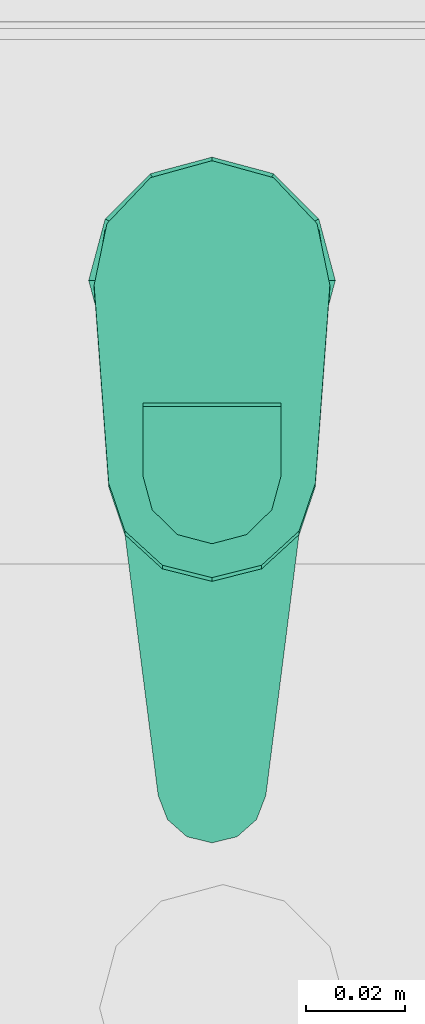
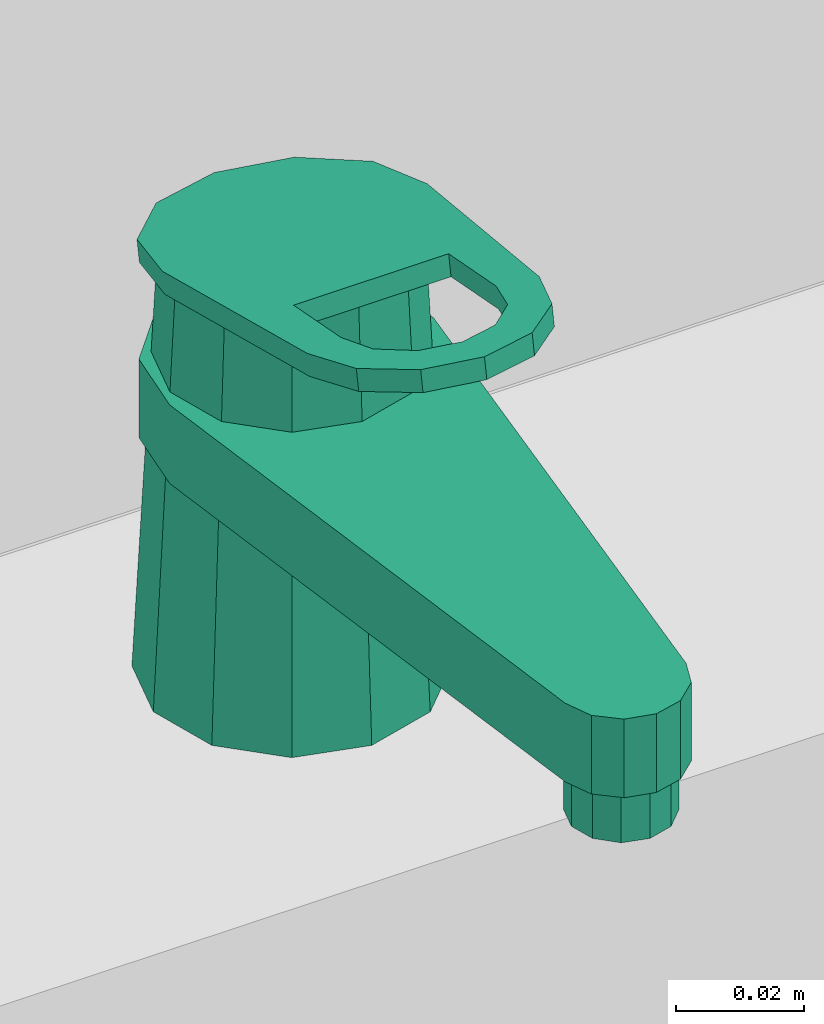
# One storey, part 91 of 127: 1 flow terminal.
"""IFC2X3 building model written with IfcOpenShell, lengths in millimetres."""

from ifc_helpers import new_model, entity, si_unit, converted_unit, derived_unit, money_unit, direction, frame, origin_with_axes, place, context, subcontext, project, spatial, faceted_brep, type_object, element, save


model = new_model("IFC2X3")

# Units and contexts
model_context = context("Model", 3, precision=1e-05, world=origin_with_axes(), true_north=direction((0.0, 1.0)))
body_context = subcontext(model_context, "Body", "Model", "MODEL_VIEW")
ifc_project = project(units=[si_unit("LENGTHUNIT", "METRE", prefix="MILLI"), si_unit("AREAUNIT", "SQUARE_METRE"), si_unit("VOLUMEUNIT", "CUBIC_METRE"), converted_unit("PLANEANGLEUNIT", "DEGREE", entity("IfcPlaneAngleMeasure", 0.0174532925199), si_unit("PLANEANGLEUNIT", "RADIAN"), dimensions=[0, 0, 0, 0, 0, 0, 0]), si_unit("SOLIDANGLEUNIT", "STERADIAN"), money_unit("EUR"), converted_unit("TIMEUNIT", "Year", entity("IfcTimeMeasure", 31556926.0), si_unit("TIMEUNIT", "SECOND"), dimensions=[0, 0, 1, 0, 0, 0, 0]), si_unit("MASSUNIT", "GRAM", prefix="KILO"), si_unit("THERMODYNAMICTEMPERATUREUNIT", "DEGREE_CELSIUS"), si_unit("LUMINOUSINTENSITYUNIT", "LUMEN"), si_unit("ENERGYUNIT", "JOULE", prefix="MEGA"), derived_unit("THERMALCONDUCTANCEUNIT", [(si_unit("POWERUNIT", "WATT"), 1), (si_unit("LENGTHUNIT", "METRE"), -1), (si_unit("THERMODYNAMICTEMPERATUREUNIT", "KELVIN"), -1)]), derived_unit("SPECIFICHEATCAPACITYUNIT", [(si_unit("ENERGYUNIT", "JOULE"), 1), (si_unit("MASSUNIT", "GRAM", prefix="KILO"), -1), (si_unit("THERMODYNAMICTEMPERATUREUNIT", "KELVIN"), -1)]), derived_unit("MASSDENSITYUNIT", [(si_unit("MASSUNIT", "GRAM", prefix="KILO"), 1), (si_unit("VOLUMEUNIT", "CUBIC_METRE"), -1)])], contexts=[model_context])

# Site, building, storey
site_placement = place(None, origin_with_axes())
site = spatial("IfcSite", under=ifc_project, at=site_placement, Name="Site", CompositionType="ELEMENT")
building_placement = place(site_placement, origin_with_axes())
building = spatial("IfcBuilding", under=site, at=building_placement, Name="Building", CompositionType="ELEMENT")
storey_placement = place(building_placement, origin_with_axes())
storey = spatial("IfcBuildingStorey", under=building, at=storey_placement, Name="1 KORRUS", CompositionType="ELEMENT", Elevation=0.0)

# Flow terminal
sanitary_terminal_type = type_object("IfcSanitaryTerminalType", Name="Tap 22", PredefinedType="NOTDEFINED")
flow_terminal_placement = place(storey_placement, frame((70568.0170631, 39216.531527, 40.0), z_axis=(0.0, 0.0, 1.0), x_axis=(1.0, 0.0, 0.0)))
element("IfcFlowTerminal", 1, at=flow_terminal_placement, inside=storey, type_object=sanitary_terminal_type, Name="Valamu", context=body_context, shape_type="Brep", body=[
    faceted_brep([(12.5, 21.6506350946, 1000.0), (0.0, 25.0, 1000.0), (0.0, 21.2019230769, 1075.96153846), (10.5873227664, 18.3377809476, 1076.50708934), (21.6506350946, 12.5, 1000.0), (25.0, 0.0, 1000.0), (21.6506350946, -12.5, 1000.0), (12.5, -21.6506350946, 1000.0), (0.0, -25.0, 1000.0), (-12.5, -21.6506350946, 1000.0), (-21.6506350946, -12.5, 1000.0), (-25.0, 0.0, 1000.0), (-21.6506350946, 12.5, 1000.0), (-12.5, 21.6506350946, 1000.0), (-10.5873227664, 18.3377809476, 1076.50708934), (-18.2735503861, 10.5502392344, 1077.99043062), (-21.0, 0.0, 1080.0), (-18.1003413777, -10.4502369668, 1081.99052133), (-10.4141059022, -18.037760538, 1083.43576391), (0.0, -20.8018867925, 1083.96226415), (10.4141059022, -18.037760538, 1083.43576391), (18.1003413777, -10.4502369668, 1081.99052133), (21.0, 0.0, 1080.0), (18.2735503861, 10.5502392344, 1077.99043062)], [[[0, 1, 2, 3]], [[0, 4, 5, 6, 7, 8, 9, 10, 11, 12, 13, 1]], [[1, 13, 14, 2]], [[3, 2, 14, 15, 16, 17, 18, 19, 20, 21, 22, 23]], [[4, 0, 3, 23]], [[5, 4, 23, 22]], [[6, 5, 22, 21]], [[7, 6, 21, 20]], [[8, 7, 20, 19]], [[9, 8, 19, 18]], [[10, 9, 18, 17]], [[11, 10, 17, 16]], [[12, 11, 16, 15]], [[13, 12, 15, 14]]]),
    faceted_brep([(9.0, -103.0, 1035.0), (7.79422863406, -98.5, 1035.0), (7.79422863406, -98.5, 1045.0), (9.0, -103.0, 1045.0), (7.79422863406, -107.5, 1035.0), (4.5, -110.794228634, 1035.0), (0.0, -112.0, 1035.0), (-4.5, -110.794228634, 1035.0), (-7.79422863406, -107.5, 1035.0), (-9.0, -103.0, 1035.0), (-7.79422863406, -98.5, 1035.0), (-4.5, -95.2057713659, 1035.0), (0.0, -94.0, 1035.0), (4.5, -95.2057713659, 1035.0), (4.5, -95.2057713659, 1045.0), (0.0, -94.0, 1045.0), (-4.5, -95.2057713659, 1045.0), (-7.79422863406, -98.5, 1045.0), (-9.0, -103.0, 1045.0), (-7.79422863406, -107.5, 1045.0), (-4.5, -110.794228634, 1045.0), (0.0, -112.0, 1045.0), (4.5, -110.794228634, 1045.0), (7.79422863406, -107.5, 1045.0)], [[[0, 1, 2, 3]], [[0, 4, 5, 6, 7, 8, 9, 10, 11, 12, 13, 1]], [[1, 13, 14, 2]], [[3, 2, 14, 15, 16, 17, 18, 19, 20, 21, 22, 23]], [[4, 0, 3, 23]], [[5, 4, 23, 22]], [[6, 5, 22, 21]], [[7, 6, 21, 20]], [[8, 7, 20, 19]], [[9, 8, 19, 18]], [[10, 9, 18, 17]], [[11, 10, 17, 16]], [[12, 11, 16, 15]], [[13, 12, 15, 14]]]),
    faceted_brep([(-12.8717176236, 20.2563038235, 1060.0), (-21.727805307, 10.1932053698, 1060.0), (-23.8054, -3.0499, 1060.0), (-10.911990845, -104.388371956, 1060.0), (-9.02887546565, -109.283194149, 1060.0), (-5.09332449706, -112.749726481, 1060.0), (3.62679860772e-05, -113.99996004, 1060.0), (5.09338878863, -112.749692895, 1060.0), (9.02891689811, -109.283134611, 1060.0), (10.912, -104.3883, 1060.0), (23.8053997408, -3.04990202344, 1060.0), (21.7278061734, 10.193203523, 1060.0), (12.8717193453, 20.2563027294, 1060.0), (1.01998896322e-06, 23.999978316, 1060.0), (11.0, 19.0525588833, 1060.0), (19.0525588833, 11.0, 1060.0), (22.0, 0.0, 1060.0), (19.0525588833, -11.0, 1060.0), (11.0, -19.0525588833, 1060.0), (0.0, -22.0, 1060.0), (-11.0, -19.0525588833, 1060.0), (-19.0525588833, -11.0, 1060.0), (-22.0, 0.0, 1060.0), (-19.0525588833, 11.0, 1060.0), (-11.0, 19.0525588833, 1060.0), (0.0, 22.0, 1060.0), (-21.727805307, 10.1932053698, 1045.0), (-12.8717176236, 20.2563038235, 1045.0), (-23.8054, -3.0499, 1045.0), (-10.911990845, -104.388371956, 1045.0), (-9.02887546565, -109.283194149, 1045.0), (-5.09332449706, -112.749726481, 1045.0), (3.62679860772e-05, -113.99996004, 1045.0), (5.09338878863, -112.749692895, 1045.0), (9.02891689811, -109.283134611, 1045.0), (10.912, -104.3883, 1045.0), (23.8053997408, -3.04990202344, 1045.0), (21.7278061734, 10.193203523, 1045.0), (12.8717193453, 20.2563027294, 1045.0), (1.01998896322e-06, 23.999978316, 1045.0), (11.375, 19.7020779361, 1045.0), (19.7020779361, 11.375, 1045.0), (22.75, 0.0, 1045.0), (19.7020779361, -11.375, 1045.0), (11.375, -19.7020779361, 1045.0), (0.0, -22.75, 1045.0), (-11.375, -19.7020779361, 1045.0), (-19.7020779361, -11.375, 1045.0), (-22.75, 0.0, 1045.0), (-19.7020779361, 11.375, 1045.0), (-11.375, 19.7020779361, 1045.0), (0.0, 22.75, 1045.0)], [[[0, 1, 2, 3, 4, 5, 6, 7, 8, 9, 10, 11, 12, 13], [14, 15, 16, 17, 18, 19, 20, 21, 22, 23, 24, 25]], [[26, 1, 0, 27]], [[28, 2, 1, 26]], [[29, 3, 2, 28]], [[30, 4, 3, 29]], [[31, 5, 4, 30]], [[32, 6, 5, 31]], [[33, 7, 6, 32]], [[34, 8, 7, 33]], [[35, 9, 8, 34]], [[36, 10, 9, 35]], [[37, 11, 10, 36]], [[38, 12, 11, 37]], [[39, 13, 12, 38]], [[27, 0, 13, 39]], [[40, 41, 15, 14]], [[41, 42, 16, 15]], [[42, 43, 17, 16]], [[43, 44, 18, 17]], [[44, 45, 19, 18]], [[20, 19, 45, 46]], [[21, 20, 46, 47]], [[22, 21, 47, 48]], [[23, 22, 48, 49]], [[24, 23, 49, 50]], [[50, 51, 25, 24]], [[51, 40, 14, 25]], [[32, 31, 30, 29, 28, 26, 27, 39, 38, 37, 36, 35, 34, 33], [44, 43, 42, 41, 40, 51, 50, 49, 48, 47, 46, 45]]]),
    faceted_brep([(23.893, -1.69256934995, 1080.32239416), (21.2964214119, 10.774718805, 1077.94767261), (21.2964214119, 11.5231672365, 1081.87702687), (23.893, -0.944120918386, 1084.25174843), (20.9459364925, -41.8367022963, 1087.96889568), (17.6631391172, -51.5143665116, 1089.81226029), (10.0614352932, -58.4637460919, 1091.13595164), (-0.000442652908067, -60.9856119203, 1091.61630703), (-10.0622123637, -58.4633294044, 1091.13587227), (-17.6636179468, -51.5136350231, 1089.81212096), (-20.946, -41.8358348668, 1087.96873045), (-23.893020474, -1.69229042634, 1080.32234103), (-21.2962910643, 10.7749674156, 1077.94762525), (-12.4716815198, 20.0911974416, 1076.17310525), (0.000142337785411, 23.5319645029, 1075.51772105), (12.4719245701, 20.0910518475, 1076.17313298), (14.0, -25.540802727, 1084.86491481), (-14.0, -25.540802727, 1084.86491481), (-14.0, -40.3564329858, 1087.68693962), (-12.124355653, -47.2328029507, 1088.99672437), (-7.0, -52.2666551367, 1089.95555336), (0.0, -54.1091729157, 1090.30650913), (7.0, -52.2666551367, 1089.95555336), (12.124355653, -47.2328029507, 1088.99672437), (14.0, -40.3564329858, 1087.68693962), (12.4719245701, 20.8395002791, 1080.10248725), (0.000142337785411, 24.2804129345, 1079.44707531), (-12.4716815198, 20.8396458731, 1080.10245951), (-21.2962910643, 11.5234158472, 1081.87697952), (-23.893020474, -0.943841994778, 1084.2516953), (-20.946, -41.0873864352, 1091.89808472), (-17.6636179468, -50.7651865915, 1093.74147522), (-10.0622123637, -57.7148809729, 1095.06522653), (-0.000442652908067, -60.2371634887, 1095.5456613), (10.0614352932, -57.7152976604, 1095.0653059), (17.6631391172, -50.7659180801, 1093.74161455), (20.9459364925, -41.0882538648, 1091.89824994), (14.0, -24.7923542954, 1088.79426907), (14.0, -39.6079845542, 1091.61629388), (12.124355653, -46.4843545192, 1092.92607864), (7.0, -51.5182067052, 1093.88490763), (0.0, -53.3607244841, 1094.23586339), (-7.0, -51.5182067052, 1093.88490763), (-12.124355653, -46.4843545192, 1092.92607864), (-14.0, -39.6079845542, 1091.61629388), (-14.0, -24.7923542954, 1088.79426907)], [[[0, 1, 2, 3]], [[0, 4, 5, 6, 7, 8, 9, 10, 11, 12, 13, 14, 15, 1], [16, 17, 18, 19, 20, 21, 22, 23, 24]], [[1, 15, 25, 2]], [[3, 2, 25, 26, 27, 28, 29, 30, 31, 32, 33, 34, 35, 36], [37, 38, 39, 40, 41, 42, 43, 44, 45]], [[4, 0, 3, 36]], [[5, 4, 36, 35]], [[6, 5, 35, 34]], [[7, 6, 34, 33]], [[8, 7, 33, 32]], [[9, 8, 32, 31]], [[10, 9, 31, 30]], [[11, 10, 30, 29]], [[12, 11, 29, 28]], [[13, 12, 28, 27]], [[14, 13, 27, 26]], [[15, 14, 26, 25]], [[17, 16, 37, 45]], [[18, 17, 45, 44]], [[19, 18, 44, 43]], [[20, 19, 43, 42]], [[21, 20, 42, 41]], [[22, 21, 41, 40]], [[23, 22, 40, 39]], [[24, 23, 39, 38]], [[16, 24, 38, 37]]]),
])

save(model, "model.ifc")
